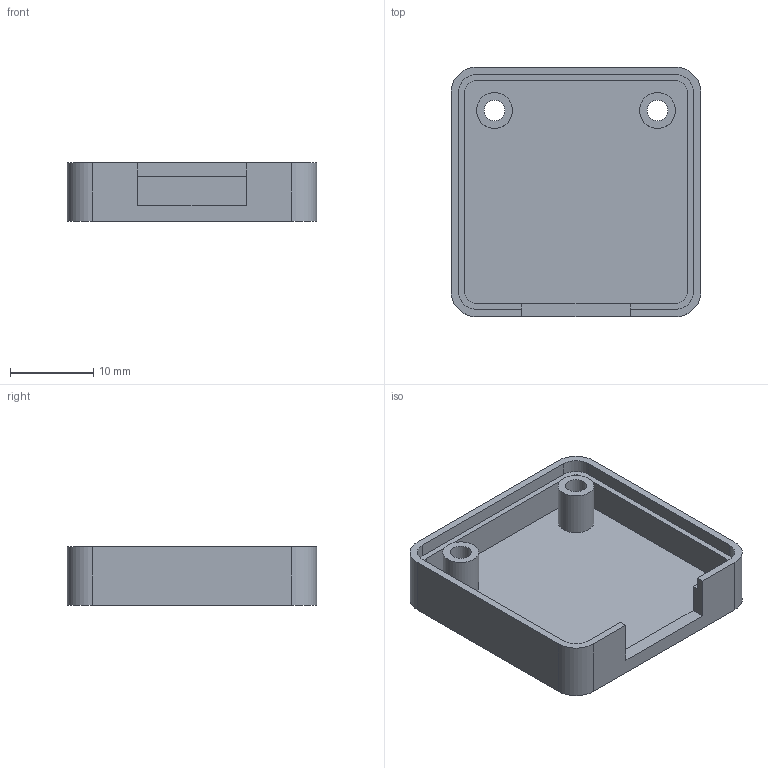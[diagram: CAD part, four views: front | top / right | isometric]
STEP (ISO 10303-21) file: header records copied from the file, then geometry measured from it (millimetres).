
FILE_DESCRIPTION(('FreeCAD Model'),'2;1');
FILE_NAME('Open CASCADE Shape Model','2026-11-25T10:48:50',('FreeCAD'),( 'FreeCAD'),'Open CASCADE STEP processor 7.8','FreeCAD','Unknown');
FILE_SCHEMA(('AUTOMOTIVE_DESIGN { 1 0 10303 214 1 1 1 1 }'));
Length unit declared in the file: millimetre
Products named in the file (1): Open CASCADE STEP translator 7.8 1
Bounding box: 30 x 30 x 7 mm (x, y, z)
Volume: 2245.5 mm3; surface area: 3272.3 mm2
Topology: 1 solids, 1 shells, 40 faces, 106 edges, 70 vertices
Faces by surface type: plane 22, cylinder 16, cone 2
Full cylindrical faces by diameter (mm): 2.5 x2, 4.3 x2
Entity records: 1266 total; most frequent: DIRECTION 222, CARTESIAN_POINT 217, ORIENTED_EDGE 212, EDGE_CURVE 106, AXIS2_PLACEMENT_3D 75, LINE 72, VECTOR 72, VERTEX_POINT 70
